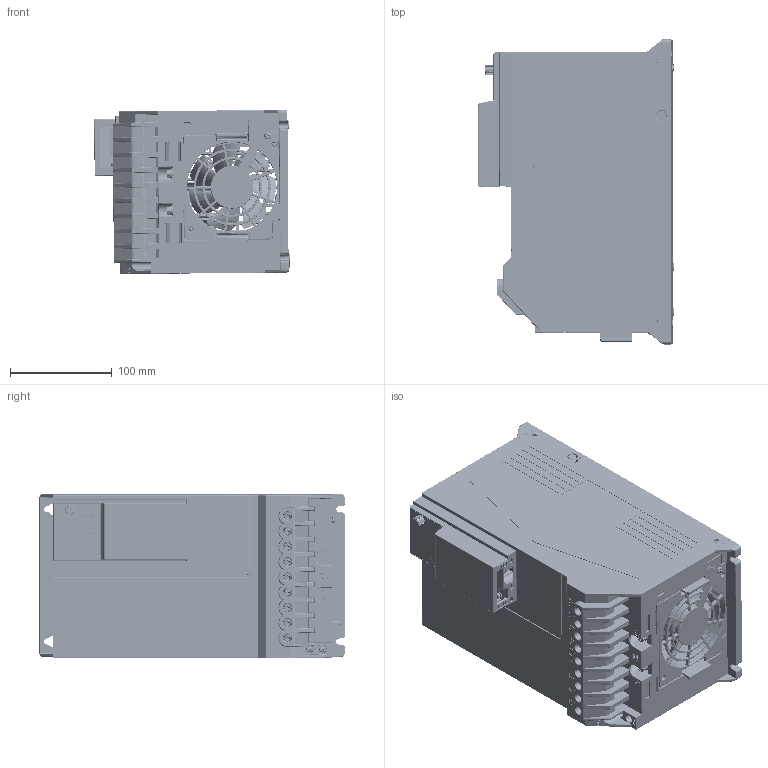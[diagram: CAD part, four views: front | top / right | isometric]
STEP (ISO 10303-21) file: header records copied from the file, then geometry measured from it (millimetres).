
FILE_DESCRIPTION((''),'2;1');
FILE_NAME('00-GD27-022G-4_ASM_ASM','2025-05-12T09:30:50',('Administrator'),(''),'CREO PARAMETRIC BY PTC INC, 2019080','CREO PARAMETRIC BY PTC INC, 2019080','');
FILE_SCHEMA(('CONFIG_CONTROL_DESIGN'));
Products named in the file (40): 80310959_2; TPR-3-8-SL_2; 80310959_ASM_2_ASM; 80740479_2; GB809-M4X6A_2; GB809-M5X6A_2; 80740479_ASM_2_ASM; 80740480_3; 80740480SY_2; 80740480SY_ASM_2_ASM; 80810223_2; 80810223SY_2; 80810223SY_ASM_2_ASM; 89300003_2; 89210169_2; 61008-00023_2; 89280031_2; E-DIN0109-15MM-12_5MM-TF_2; 17003-06279-3D_A20250123_ASM_2_ASM; 89280032_2; 2-21-19-092_333_2; FAN_1_01_2; FAN_1_02_2; XIANGAI_2; 9238-7IMPELLER_2; 929238_ASM_2_ASM; GD27-022G-4-ES_ASM_14_ASM; GB845_ST3D5X9D5_ZC_2; GB9074_8_M4X16_ZC_2; GB9074_13_M5X12_ZC_2; GB9074_8_M4X10_2; GB9074_13_M5X16_ZC_2; GB819_1976_M4X8_ZC_2; GB9074_8_M3X8_ZC_2; GB9074_8_M3X6_2; GD27-022G-4-FS_ASM_5_ASM; 61007-01063_2; 80740127_2; 00-GD27-022G-4_ASM_23_ASM; 00-GD27-022G-4_ASM_ASM
Assembly tree (81 placements, depth 5):
  00-GD27-022G-4_ASM_ASM
    00-GD27-022G-4_ASM_23_ASM
      80310959_ASM_2_ASM
        80310959_2
        TPR-3-8-SL_2  x2
      80740479_ASM_2_ASM
        80740479_2
        GB809-M4X6A_2  x4
        GB809-M5X6A_2  x6
      80740480SY_ASM_2_ASM
        80740480_3
        80740480SY_2
      80810223SY_ASM_2_ASM
        80810223_2
        80810223SY_2
      89300003_2
      89210169_2
      61008-00023_2
      89280031_2
      GD27-022G-4-ES_ASM_14_ASM
        17003-06279-3D_A20250123_ASM_2_ASM
          E-DIN0109-15MM-12_5MM-TF_2
        89280032_2
        929238_ASM_2_ASM
          2-21-19-092_333_2
          FAN_1_01_2
          FAN_1_02_2
          XIANGAI_2
          9238-7IMPELLER_2
      GD27-022G-4-FS_ASM_5_ASM
        GB845_ST3D5X9D5_ZC_2  x12
        GB9074_8_M4X16_ZC_2
        GB9074_13_M5X12_ZC_2  x9
        GB9074_8_M4X10_2  x5
        GB9074_13_M5X16_ZC_2  x4
        GB819_1976_M4X8_ZC_2  x6
        GB9074_8_M3X8_ZC_2  x3
        GB9074_8_M3X6_2
      61007-01063_2
      80740127_2
Bounding box: 192.28 x 300 x 161.26 mm (x, y, z)
Volume: 1015653.1 mm3; surface area: 889804.4 mm2
Topology: 70 solids, 83 shells, 13887 faces, 38604 edges, 25142 vertices
Faces by surface type: plane 7981, cylinder 3318, torus 852, cone 835, bspline 430, extrusion 296, sphere 175
Entity records: 421477 total; most frequent: CARTESIAN_POINT 134107, ORIENTED_EDGE 62544, DIRECTION 56077, EDGE_CURVE 31282, VERTEX_POINT 20375, VECTOR 20217, LINE 19921, AXIS2_PLACEMENT_3D 17930
